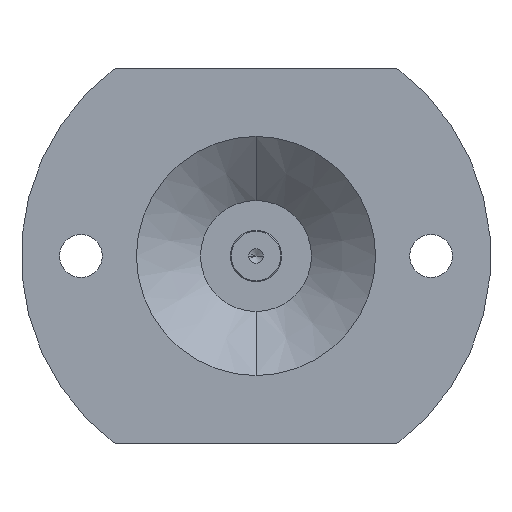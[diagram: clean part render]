
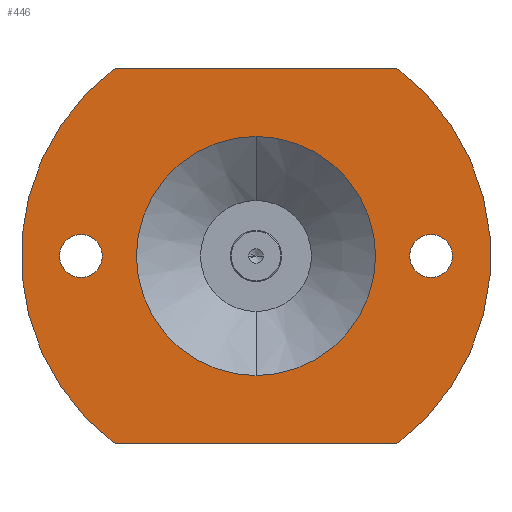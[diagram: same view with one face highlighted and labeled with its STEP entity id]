
A CAD part, front view. The second image highlights one B-rep face of the part: STEP entity #446.
In plain terms, the highlighted planar face has unit normal (0, -1, 0).
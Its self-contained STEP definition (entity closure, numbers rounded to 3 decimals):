
#13 = CARTESIAN_POINT ( 'NONE',  ( -44.841, 0., -16.58 ) ) ;
#16 = AXIS2_PLACEMENT_3D ( 'NONE', #454, #640, #290 ) ;
#18 = ORIENTED_EDGE ( 'NONE', *, *, #1146, .T. ) ;
#25 = AXIS2_PLACEMENT_3D ( 'NONE', #289, #753, #763 ) ;
#35 = LINE ( 'NONE', #875, #485 ) ;
#45 = ORIENTED_EDGE ( 'NONE', *, *, #1191, .T. ) ;
#47 = VERTEX_POINT ( 'NONE', #264 ) ;
#71 = DIRECTION ( 'NONE',  ( 0., 1., 0. ) ) ;
#94 = ORIENTED_EDGE ( 'NONE', *, *, #723, .T. ) ;
#117 = EDGE_CURVE ( 'NONE', #744, #277, #997, .T. ) ;
#139 = EDGE_CURVE ( 'NONE', #1182, #453, #430, .T. ) ;
#146 = CIRCLE ( 'NONE', #279, 14. ) ;
#149 = DIRECTION ( 'NONE',  ( 0., 0., -1. ) ) ;
#150 = AXIS2_PLACEMENT_3D ( 'NONE', #1173, #796, #611 ) ;
#153 = EDGE_LOOP ( 'NONE', ( #94, #830 ) ) ;
#190 = CARTESIAN_POINT ( 'NONE',  ( -24.341, 0., 7.92 ) ) ;
#210 = VERTEX_POINT ( 'NONE', #13 ) ;
#233 = AXIS2_PLACEMENT_3D ( 'NONE', #907, #346, #1000 ) ;
#264 = CARTESIAN_POINT ( 'NONE',  ( -44.841, 0., -11.58 ) ) ;
#277 = VERTEX_POINT ( 'NONE', #966 ) ;
#279 = AXIS2_PLACEMENT_3D ( 'NONE', #635, #71, #995 ) ;
#280 = ORIENTED_EDGE ( 'NONE', *, *, #566, .T. ) ;
#282 = CIRCLE ( 'NONE', #1140, 2.5 ) ;
#289 = CARTESIAN_POINT ( 'NONE',  ( -3.841, 0., -14.08 ) ) ;
#290 = DIRECTION ( 'NONE',  ( 0., 0., -1. ) ) ;
#318 = DIRECTION ( 'NONE',  ( 1., 0., 0. ) ) ;
#334 = DIRECTION ( 'NONE',  ( 0., 1., 0. ) ) ;
#338 = AXIS2_PLACEMENT_3D ( 'NONE', #693, #614, #782 ) ;
#346 = DIRECTION ( 'NONE',  ( 0., 1., 0. ) ) ;
#372 = DIRECTION ( 'NONE',  ( 0., 0., -1. ) ) ;
#418 = CARTESIAN_POINT ( 'NONE',  ( -44.841, 0., -14.08 ) ) ;
#430 = LINE ( 'NONE', #190, #1089 ) ;
#439 = ORIENTED_EDGE ( 'NONE', *, *, #1209, .T. ) ;
#446 = ADVANCED_FACE ( 'NONE', ( #530, #844, #812, #561 ), #929, .T. ) ;
#453 = VERTEX_POINT ( 'NONE', #1026 ) ;
#454 = CARTESIAN_POINT ( 'NONE',  ( -24.341, 0., -14.08 ) ) ;
#455 = EDGE_LOOP ( 'NONE', ( #280, #45 ) ) ;
#485 = VECTOR ( 'NONE', #318, 1000. ) ;
#498 = CIRCLE ( 'NONE', #233, 14. ) ;
#530 = FACE_BOUND ( 'NONE', #153, .T. ) ;
#539 = VERTEX_POINT ( 'NONE', #1220 ) ;
#561 = FACE_BOUND ( 'NONE', #949, .T. ) ;
#566 = EDGE_CURVE ( 'NONE', #210, #47, #282, .T. ) ;
#578 = EDGE_LOOP ( 'NONE', ( #1115, #1130, #853, #439 ) ) ;
#611 = DIRECTION ( 'NONE',  ( 0., 0., -1. ) ) ;
#614 = DIRECTION ( 'NONE',  ( 0., -1., 0. ) ) ;
#624 = EDGE_CURVE ( 'NONE', #539, #788, #498, .T. ) ;
#635 = CARTESIAN_POINT ( 'NONE',  ( -24.341, 0., -14.08 ) ) ;
#640 = DIRECTION ( 'NONE',  ( 0., -1., 0. ) ) ;
#649 = CARTESIAN_POINT ( 'NONE',  ( -24.341, 0., -28.08 ) ) ;
#655 = DIRECTION ( 'NONE',  ( -1., 0., 0. ) ) ;
#672 = CARTESIAN_POINT ( 'NONE',  ( -7.841, 0., -36.08 ) ) ;
#693 = CARTESIAN_POINT ( 'NONE',  ( -24.341, 0., -14.08 ) ) ;
#701 = DIRECTION ( 'NONE',  ( 0., 0., -1. ) ) ;
#723 = EDGE_CURVE ( 'NONE', #788, #539, #146, .T. ) ;
#731 = CIRCLE ( 'NONE', #1136, 2.5 ) ;
#744 = VERTEX_POINT ( 'NONE', #816 ) ;
#753 = DIRECTION ( 'NONE',  ( 0., 1., 0. ) ) ;
#763 = DIRECTION ( 'NONE',  ( 0., 0., -1. ) ) ;
#782 = DIRECTION ( 'NONE',  ( 0., 0., -1. ) ) ;
#788 = VERTEX_POINT ( 'NONE', #649 ) ;
#796 = DIRECTION ( 'NONE',  ( 0., 1., 0. ) ) ;
#812 = FACE_OUTER_BOUND ( 'NONE', #578, .T. ) ;
#816 = CARTESIAN_POINT ( 'NONE',  ( -3.841, 0., -11.58 ) ) ;
#823 = VERTEX_POINT ( 'NONE', #1204 ) ;
#830 = ORIENTED_EDGE ( 'NONE', *, *, #624, .T. ) ;
#837 = CARTESIAN_POINT ( 'NONE',  ( -24.341, 0., -14.08 ) ) ;
#844 = FACE_BOUND ( 'NONE', #455, .T. ) ;
#853 = ORIENTED_EDGE ( 'NONE', *, *, #1163, .T. ) ;
#859 = VERTEX_POINT ( 'NONE', #672 ) ;
#875 = CARTESIAN_POINT ( 'NONE',  ( -24.341, 0., -36.08 ) ) ;
#907 = CARTESIAN_POINT ( 'NONE',  ( -24.341, 0., -14.08 ) ) ;
#929 = PLANE ( 'NONE',  #16 ) ;
#949 = EDGE_LOOP ( 'NONE', ( #18, #1074 ) ) ;
#966 = CARTESIAN_POINT ( 'NONE',  ( -3.841, 0., -16.58 ) ) ;
#987 = AXIS2_PLACEMENT_3D ( 'NONE', #837, #1203, #372 ) ;
#995 = DIRECTION ( 'NONE',  ( 0., 0., -1. ) ) ;
#997 = CIRCLE ( 'NONE', #25, 2.5 ) ;
#1000 = DIRECTION ( 'NONE',  ( 0., 0., -1. ) ) ;
#1022 = EDGE_CURVE ( 'NONE', #859, #1182, #1116, .T. ) ;
#1026 = CARTESIAN_POINT ( 'NONE',  ( -40.841, 0., 7.92 ) ) ;
#1040 = CIRCLE ( 'NONE', #338, 27.5 ) ;
#1061 = CARTESIAN_POINT ( 'NONE',  ( -7.841, 0., 7.92 ) ) ;
#1073 = DIRECTION ( 'NONE',  ( 0., 1., 0. ) ) ;
#1074 = ORIENTED_EDGE ( 'NONE', *, *, #117, .T. ) ;
#1081 = CARTESIAN_POINT ( 'NONE',  ( -44.841, 0., -14.08 ) ) ;
#1089 = VECTOR ( 'NONE', #655, 1000. ) ;
#1103 = CIRCLE ( 'NONE', #150, 2.5 ) ;
#1115 = ORIENTED_EDGE ( 'NONE', *, *, #1022, .T. ) ;
#1116 = CIRCLE ( 'NONE', #987, 27.5 ) ;
#1130 = ORIENTED_EDGE ( 'NONE', *, *, #139, .T. ) ;
#1136 = AXIS2_PLACEMENT_3D ( 'NONE', #418, #1073, #701 ) ;
#1140 = AXIS2_PLACEMENT_3D ( 'NONE', #1081, #334, #149 ) ;
#1146 = EDGE_CURVE ( 'NONE', #277, #744, #1103, .T. ) ;
#1163 = EDGE_CURVE ( 'NONE', #453, #823, #1040, .T. ) ;
#1173 = CARTESIAN_POINT ( 'NONE',  ( -3.841, 0., -14.08 ) ) ;
#1182 = VERTEX_POINT ( 'NONE', #1061 ) ;
#1191 = EDGE_CURVE ( 'NONE', #47, #210, #731, .T. ) ;
#1203 = DIRECTION ( 'NONE',  ( 0., -1., 0. ) ) ;
#1204 = CARTESIAN_POINT ( 'NONE',  ( -40.841, 0., -36.08 ) ) ;
#1209 = EDGE_CURVE ( 'NONE', #823, #859, #35, .T. ) ;
#1220 = CARTESIAN_POINT ( 'NONE',  ( -24.341, 0., -0.08 ) ) ;
